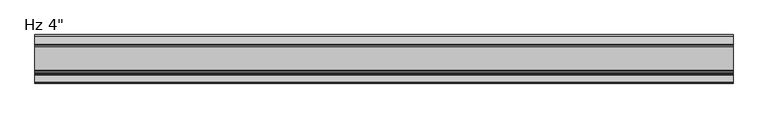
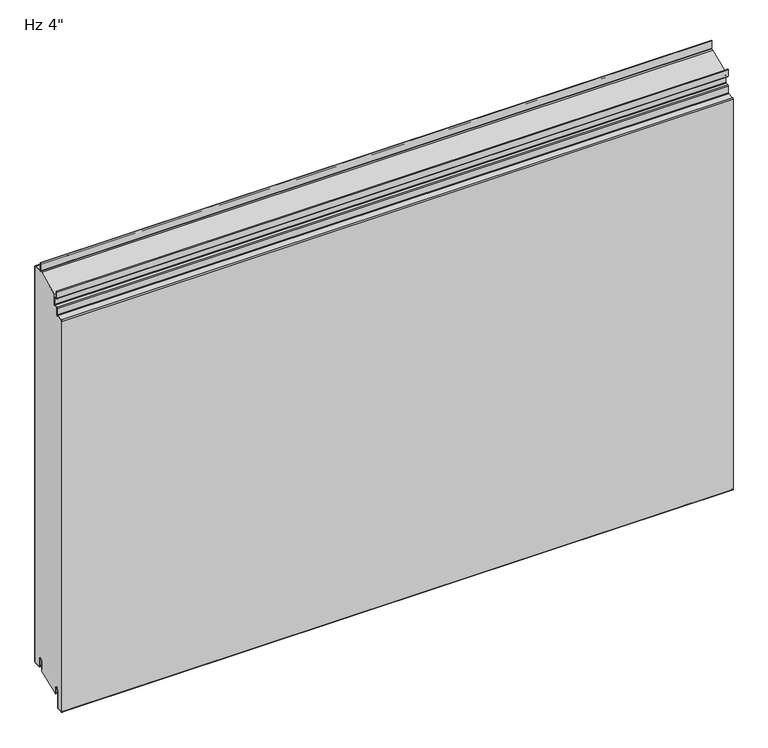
"""IFC4 building model written with IfcOpenShell, lengths in millimetres: plate geometry."""

from ifc_helpers import new_model, si_unit, point, frame, frame_2d, origin, place, context, project, spatial, polyline, circle_curve, ellipse_curve, trimmed, segment, composite_curve, outline, extrude, source, transform, mapped, element, save
from ifc_brep_helpers import plane_surface, cylinder_surface, revolved_surface, extruded_surface, advanced_brep


def plate_32df100a(model_context):
    return source(origin(), model_context, "Body", "SolidModel", [
        extrude(outline(composite_curve([segment(trimmed(circle_curve(frame_2d((-21.43125, 19.05)), 4.96875), [point((-16.4625, 19.05))], [point((-26.4, 19.05))], True, "CARTESIAN"), True, "CONTINUOUS"), segment(polyline([(-26.4, 19.05), (-26.4, -3.1323422), (-74.6157227, -23.01875), (-76.2, -23.01875), (-76.2, -13.5080174), (-76.99375, -13.5080174), (-76.7875, -11.9205174)]), True, "CONTINUOUS"), segment(trimmed(circle_curve(frame_2d((-81.75625, -11.9205174)), 4.96875), [point((-76.7875, -11.9205174))], [point((-86.725, -11.9205174))], True, "CARTESIAN"), True, "CONTINUOUS"), segment(polyline([(-86.725, -11.9205174), (-86.725, -50.1038221)]), True, "CONTINUOUS"), segment(trimmed(circle_curve(frame_2d((-88.10625, -50.1038221)), 1.38125), [point((-86.725, -50.1038221))], [point((-88.033961, -51.4831791))], False, "CARTESIAN"), True, "CONTINUOUS"), segment(polyline([(-88.033961, -51.4831791), (-99.146461, -52.0655606)]), True, "CONTINUOUS"), segment(trimmed(circle_curve(frame_2d((-99.21875, -50.6862035)), 1.38125), [point((-99.146461, -52.0655606))], [point((-100.6, -50.6862035))], False, "CARTESIAN"), True, "CONTINUOUS"), segment(polyline([(-100.6, -50.6862035), (-100.6, 846.2447607)]), True, "CONTINUOUS"), segment(trimmed(circle_curve(frame_2d((-99.21875, 846.2447607)), 1.38125), [point((-100.6, 846.2447607))], [point((-99.291039, 847.6241177))], False, "CARTESIAN"), True, "CONTINUOUS"), segment(polyline([(-99.291039, 847.6241177), (-85.5895807, 848.3421807)]), True, "CONTINUOUS"), segment(trimmed(circle_curve(frame_2d((-85.725, 850.9261347)), 2.5875), [point((-85.5895807, 848.3421807))], [point((-83.1375, 850.9261347))], True, "CARTESIAN"), True, "CONTINUOUS"), segment(polyline([(-83.1375, 850.9261347), (-83.1375, 865.0824411)]), True, "CONTINUOUS"), segment(trimmed(circle_curve(frame_2d((-81.75625, 865.0824411)), 1.38125), [point((-83.1375, 865.0824411))], [point((-81.828539, 866.4617981))], False, "CARTESIAN"), True, "CONTINUOUS"), segment(polyline([(-81.828539, 866.4617981), (-76.0645807, 866.7638744)]), True, "CONTINUOUS"), segment(trimmed(circle_curve(frame_2d((-76.2, 869.3478283)), 2.5875), [point((-76.0645807, 866.7638744))], [point((-73.6125, 869.3478283))], True, "CARTESIAN"), True, "CONTINUOUS"), segment(polyline([(-73.6125, 869.3478283), (-73.6125, 891.7892934), (-24.9057308, 912.60625), (-2.38125, 912.60625)]), True, "CONTINUOUS"), segment(trimmed(circle_curve(frame_2d((-2.38125, 911.225)), 1.38125), [point((-2.38125, 912.60625))], [point((-1.0, 911.225))], False, "CARTESIAN"), True, "CONTINUOUS"), segment(polyline([(-1.0, 911.225), (-1.0, 3.175)]), True, "CONTINUOUS"), segment(trimmed(circle_curve(frame_2d((-2.38125, 3.175)), 1.38125), [point((-1.0, 3.175))], [point((-2.38125, 1.79375))], False, "CARTESIAN"), True, "CONTINUOUS"), segment(polyline([(-2.38125, 1.79375), (-15.08125, 1.79375)]), True, "CONTINUOUS"), segment(trimmed(circle_curve(frame_2d((-15.08125, 3.175)), 1.38125), [point((-15.08125, 1.79375))], [point((-16.4625, 3.175))], False, "CARTESIAN"), True, "CONTINUOUS"), segment(polyline([(-16.4625, 3.175), (-16.4625, 19.05)]), True, "CONTINUOUS")], self_intersect=False)), frame((-730.0, 0.0, 0.0), z_axis=(1.0, 0.0, 0.0), x_axis=(0.0, 1.0, 0.0)), (0.0, 0.0, 1.0), 1460.0),
        extrude(outline(composite_curve([segment(polyline([(-25.4, 0.79375), (-26.4, 0.79375), (-26.4, 19.05)]), True, "CONTINUOUS"), segment(trimmed(circle_curve(frame_2d((-21.43125, 19.05)), 4.96875), [point((-26.4, 19.05))], [point((-16.4625, 19.05))], False, "CARTESIAN"), True, "CONTINUOUS"), segment(polyline([(-16.4625, 19.05), (-16.4625, 3.175)]), True, "CONTINUOUS"), segment(trimmed(circle_curve(frame_2d((-15.08125, 3.175)), 1.38125), [point((-16.4625, 3.175))], [point((-15.08125, 1.79375))], True, "CARTESIAN"), True, "CONTINUOUS"), segment(polyline([(-15.08125, 1.79375), (-2.38125, 1.79375)]), True, "CONTINUOUS"), segment(trimmed(circle_curve(frame_2d((-2.38125, 3.175)), 1.38125), [point((-2.38125, 1.79375))], [point((-1.0, 3.175))], True, "CARTESIAN"), True, "CONTINUOUS"), segment(polyline([(-1.0, 3.175), (-1.0, 911.225)]), True, "CONTINUOUS"), segment(trimmed(circle_curve(frame_2d((-2.38125, 911.225)), 1.38125), [point((-1.0, 911.225))], [point((-2.38125, 912.60625))], True, "CARTESIAN"), True, "CONTINUOUS"), segment(polyline([(-2.38125, 912.60625), (-19.446875, 912.60625)]), True, "CONTINUOUS"), segment(trimmed(circle_curve(frame_2d((-19.446875, 915.19375)), 2.5875), [point((-19.446875, 912.60625))], [point((-22.034375, 915.19375))], False, "CARTESIAN"), True, "CONTINUOUS"), segment(polyline([(-22.034375, 915.19375), (-22.034375, 932.65625), (-21.034375, 932.65625), (-21.034375, 915.19375)]), True, "CONTINUOUS"), segment(trimmed(circle_curve(frame_2d((-19.446875, 915.19375)), 1.5875), [point((-21.034375, 915.19375))], [point((-19.446875, 913.60625))], True, "CARTESIAN"), True, "CONTINUOUS"), segment(polyline([(-19.446875, 913.60625), (-2.38125, 913.60625)]), True, "CONTINUOUS"), segment(trimmed(circle_curve(frame_2d((-2.38125, 911.225)), 2.38125), [point((-2.38125, 913.60625))], [point((0.0, 911.225))], False, "CARTESIAN"), True, "CONTINUOUS"), segment(polyline([(0.0, 911.225), (0.0, 3.175)]), True, "CONTINUOUS"), segment(trimmed(circle_curve(frame_2d((-2.38125, 3.175)), 2.38125), [point((0.0, 3.175))], [point((-2.38125, 0.79375))], False, "CARTESIAN"), True, "CONTINUOUS"), segment(polyline([(-2.38125, 0.79375), (-15.08125, 0.79375)]), True, "CONTINUOUS"), segment(trimmed(circle_curve(frame_2d((-15.08125, 3.175)), 2.38125), [point((-15.08125, 0.79375))], [point((-17.4625, 3.175))], False, "CARTESIAN"), True, "CONTINUOUS"), segment(polyline([(-17.4625, 3.175), (-17.4625, 19.05)]), True, "CONTINUOUS"), segment(trimmed(circle_curve(frame_2d((-21.43125, 19.05)), 3.96875), [point((-17.4625, 19.05))], [point((-25.4, 19.05))], True, "CARTESIAN"), True, "CONTINUOUS"), segment(polyline([(-25.4, 19.05), (-25.4, 0.79375)]), True, "CONTINUOUS")], self_intersect=False)), frame((-730.0, 0.0, 0.0), z_axis=(1.0, 0.0, 0.0), x_axis=(0.0, 1.0, 0.0)), (0.0, 0.0, 1.0), 1460.0),
        advanced_brep(
        [(-730.0, -76.2, -23.2314549), (-730.0, -77.7875, -23.2314549), (-730.0, -77.7875, -11.9205174), (-730.0, -85.725, -11.9205174), (-730.0, -85.725, -50.1038221), (-730.0, -87.981625, -52.4818086), (-730.0, -99.094125, -53.0641901), (-730.0, -101.6, -50.6862035), (-730.0, -101.6, 846.2447607), (-730.0, -99.343375, 848.6227473), (-730.0, -85.6419167, 849.3408103), (-730.0, -84.1375, 850.9261347), (-730.0, -84.1375, 865.0824411), (-730.0, -81.880875, 867.4604276), (-730.0, -76.1169167, 867.7625039), (-730.0, -74.6125, 869.3478283), (-730.0, -74.6125, 884.2232326), (-730.0, -76.2, 885.8107326), (-730.0, -80.3671875, 885.8107326), (-730.0, -82.7484375, 888.1919826), (-730.0, -82.7484375, 902.6836032), (-730.0, -80.9546875, 902.6836032), (-730.0, -80.9546875, 892.9544826), (-730.0, -81.7484375, 892.9544826), (-730.0, -81.7484375, 888.1919826), (-730.0, -80.3671875, 886.8107326), (-730.0, -76.2, 886.8107326), (-730.0, -73.6125, 884.2232326), (-730.0, -73.6125, 869.3478283), (-730.0, -76.0645807, 866.7638744), (-730.0, -81.828539, 866.4617981), (-730.0, -83.1375, 865.0824411), (-730.0, -83.1375, 850.9261347), (-730.0, -85.5895807, 848.3421807), (-730.0, -99.291039, 847.6241177), (-730.0, -100.6, 846.2447607), (-730.0, -100.6, -50.6862035), (-730.0, -99.146461, -52.0655606), (-730.0, -88.033961, -51.4831791), (-730.0, -86.725, -50.1038221), (-730.0, -86.725, -11.9205174), (-730.0, -76.7875, -11.9205174), (-730.0, -76.99375, -13.5080174), (-730.0, -76.2, -13.5080174), (730.0, -76.2, -23.2314549), (730.0, -76.2, -13.5080174), (730.0, -76.99375, -13.5080174), (730.0, -76.7875, -11.9205174), (730.0, -86.725, -11.9205174), (730.0, -86.725, -50.1038221), (730.0, -88.033961, -51.4831791), (730.0, -99.146461, -52.0655606), (730.0, -100.6, -50.6862035), (730.0, -100.6, 846.2447607), (730.0, -99.291039, 847.6241177), (730.0, -85.5895807, 848.3421807), (730.0, -83.1375, 850.9261347), (730.0, -83.1375, 865.0824411), (730.0, -81.828539, 866.4617981), (730.0, -76.0645807, 866.7638744), (730.0, -73.6125, 869.3478283), (730.0, -73.6125, 884.2232326), (730.0, -76.2, 886.8107326), (730.0, -80.3671875, 886.8107326), (730.0, -81.7484375, 888.1919826), (730.0, -81.7484375, 892.9544826), (730.0, -80.9546875, 892.9544826), (730.0, -80.9546875, 902.6836032), (730.0, -82.7484375, 902.6836032), (730.0, -82.7484375, 888.1919826), (730.0, -80.3671875, 885.8107326), (730.0, -76.2, 885.8107326), (730.0, -74.6125, 884.2232326), (730.0, -74.6125, 869.3478283), (730.0, -76.1169167, 867.7625039), (730.0, -81.880875, 867.4604276), (730.0, -84.1375, 865.0824411), (730.0, -84.1375, 850.9261347), (730.0, -85.6419167, 849.3408103), (730.0, -99.343375, 848.6227473), (730.0, -101.6, 846.2447607), (730.0, -101.6, -50.6862035), (730.0, -99.094125, -53.0641901), (730.0, -87.981625, -52.4818086), (730.0, -85.725, -50.1038221), (730.0, -85.725, -11.9205174), (730.0, -77.7875, -11.9205174), (730.0, -77.7875, -23.2314549)],
        [
            (0, 1, circle_curve(frame((-730.0, -76.99375, -23.2314549), z_axis=(-1.0, 0.0, 0.0), x_axis=(0.0, 0.0, -1.0)), 0.79375)),
            (1, 2),
            (2, 3, circle_curve(frame((-730.0, -81.75625, -11.9205174), z_axis=(1.0, 0.0, 0.0), x_axis=(0.0, 0.0, -1.0)), 3.96875)),
            (3, 4),
            (4, 5, circle_curve(frame((-730.0, -88.10625, -50.1038221), z_axis=(-1.0, 0.0, 0.0), x_axis=(0.0, 0.0, -1.0)), 2.38125)),
            (5, 6),
            (6, 7, circle_curve(frame((-730.0, -99.21875, -50.6862035), z_axis=(-1.0, 0.0, 0.0), x_axis=(0.0, 0.0, -1.0)), 2.38125)),
            (7, 8),
            (8, 9, circle_curve(frame((-730.0, -99.21875, 846.2447607), z_axis=(-1.0, 0.0, 0.0), x_axis=(0.0, 0.0, -1.0)), 2.38125)),
            (9, 10),
            (10, 11, circle_curve(frame((-730.0, -85.725, 850.9261347), z_axis=(1.0, 0.0, 0.0), x_axis=(0.0, 0.0, -1.0)), 1.5875)),
            (11, 12),
            (12, 13, circle_curve(frame((-730.0, -81.75625, 865.0824411), z_axis=(-1.0, 0.0, 0.0), x_axis=(0.0, 0.0, -1.0)), 2.38125)),
            (13, 14),
            (14, 15, circle_curve(frame((-730.0, -76.2, 869.3478283), z_axis=(1.0, 0.0, 0.0), x_axis=(0.0, 0.0, -1.0)), 1.5875)),
            (15, 16),
            (16, 17, circle_curve(frame((-730.0, -76.2, 884.2232326), z_axis=(1.0, 0.0, 0.0), x_axis=(0.0, 0.0, -1.0)), 1.5875)),
            (17, 18),
            (18, 19, circle_curve(frame((-730.0, -80.3671875, 888.1919826), z_axis=(-1.0, 0.0, 0.0), x_axis=(0.0, 0.0, -1.0)), 2.38125)),
            (19, 20),
            (20, 21, ellipse_curve(frame((-730.0, -81.8515625, 902.6836032), z_axis=(-1.0, 0.0, 0.0), x_axis=(0.0, 1.0, 0.0)), 0.896875, 0.7852275)),
            (21, 22),
            (22, 23),
            (23, 24),
            (24, 25, circle_curve(frame((-730.0, -80.3671875, 888.1919826), z_axis=(1.0, 0.0, 0.0), x_axis=(0.0, 0.0, -1.0)), 1.38125)),
            (25, 26),
            (26, 27, circle_curve(frame((-730.0, -76.2, 884.2232326), z_axis=(-1.0, 0.0, 0.0), x_axis=(0.0, 0.0, -1.0)), 2.5875)),
            (27, 28),
            (28, 29, circle_curve(frame((-730.0, -76.2, 869.3478283), z_axis=(-1.0, 0.0, 0.0), x_axis=(0.0, 0.0, -1.0)), 2.5875)),
            (29, 30),
            (30, 31, circle_curve(frame((-730.0, -81.75625, 865.0824411), z_axis=(1.0, 0.0, 0.0), x_axis=(0.0, 0.0, -1.0)), 1.38125)),
            (31, 32),
            (32, 33, circle_curve(frame((-730.0, -85.725, 850.9261347), z_axis=(-1.0, 0.0, 0.0), x_axis=(0.0, 0.0, -1.0)), 2.5875)),
            (33, 34),
            (34, 35, circle_curve(frame((-730.0, -99.21875, 846.2447607), z_axis=(1.0, 0.0, 0.0), x_axis=(0.0, 0.0, -1.0)), 1.38125)),
            (35, 36),
            (36, 37, circle_curve(frame((-730.0, -99.21875, -50.6862035), z_axis=(1.0, 0.0, 0.0), x_axis=(0.0, 0.0, -1.0)), 1.38125)),
            (37, 38),
            (38, 39, circle_curve(frame((-730.0, -88.10625, -50.1038221), z_axis=(1.0, 0.0, 0.0), x_axis=(0.0, 0.0, -1.0)), 1.38125)),
            (39, 40),
            (40, 41, circle_curve(frame((-730.0, -81.75625, -11.9205174), z_axis=(-1.0, 0.0, 0.0), x_axis=(0.0, 0.0, -1.0)), 4.96875)),
            (41, 42),
            (42, 43),
            (43, 0),
            (44, 45),
            (45, 46),
            (46, 47),
            (47, 48, circle_curve(frame((730.0, -81.75625, -11.9205174), z_axis=(1.0, 0.0, 0.0), x_axis=(0.0, 0.0, -1.0)), 4.96875)),
            (48, 49),
            (49, 50, circle_curve(frame((730.0, -88.10625, -50.1038221), z_axis=(-1.0, 0.0, 0.0), x_axis=(0.0, 0.0, -1.0)), 1.38125)),
            (50, 51),
            (51, 52, circle_curve(frame((730.0, -99.21875, -50.6862035), z_axis=(-1.0, 0.0, 0.0), x_axis=(0.0, 0.0, -1.0)), 1.38125)),
            (52, 53),
            (53, 54, circle_curve(frame((730.0, -99.21875, 846.2447607), z_axis=(-1.0, 0.0, 0.0), x_axis=(0.0, 0.0, -1.0)), 1.38125)),
            (54, 55),
            (55, 56, circle_curve(frame((730.0, -85.725, 850.9261347), z_axis=(1.0, 0.0, 0.0), x_axis=(0.0, 0.0, -1.0)), 2.5875)),
            (56, 57),
            (57, 58, circle_curve(frame((730.0, -81.75625, 865.0824411), z_axis=(-1.0, 0.0, 0.0), x_axis=(0.0, 0.0, -1.0)), 1.38125)),
            (58, 59),
            (59, 60, circle_curve(frame((730.0, -76.2, 869.3478283), z_axis=(1.0, 0.0, 0.0), x_axis=(0.0, 0.0, -1.0)), 2.5875)),
            (60, 61),
            (61, 62, circle_curve(frame((730.0, -76.2, 884.2232326), z_axis=(1.0, 0.0, 0.0), x_axis=(0.0, 0.0, -1.0)), 2.5875)),
            (62, 63),
            (63, 64, circle_curve(frame((730.0, -80.3671875, 888.1919826), z_axis=(-1.0, 0.0, 0.0), x_axis=(0.0, 0.0, -1.0)), 1.38125)),
            (64, 65),
            (65, 66),
            (66, 67),
            (67, 68, ellipse_curve(frame((730.0, -81.8515625, 902.6836032), z_axis=(1.0, 0.0, 0.0), x_axis=(0.0, 1.0, 0.0)), 0.896875, 0.7852275)),
            (68, 69),
            (69, 70, circle_curve(frame((730.0, -80.3671875, 888.1919826), z_axis=(1.0, 0.0, 0.0), x_axis=(0.0, 0.0, -1.0)), 2.38125)),
            (70, 71),
            (71, 72, circle_curve(frame((730.0, -76.2, 884.2232326), z_axis=(-1.0, 0.0, 0.0), x_axis=(0.0, 0.0, -1.0)), 1.5875)),
            (72, 73),
            (73, 74, circle_curve(frame((730.0, -76.2, 869.3478283), z_axis=(-1.0, 0.0, 0.0), x_axis=(0.0, 0.0, -1.0)), 1.5875)),
            (74, 75),
            (75, 76, circle_curve(frame((730.0, -81.75625, 865.0824411), z_axis=(1.0, 0.0, 0.0), x_axis=(0.0, 0.0, -1.0)), 2.38125)),
            (76, 77),
            (77, 78, circle_curve(frame((730.0, -85.725, 850.9261347), z_axis=(-1.0, 0.0, 0.0), x_axis=(0.0, 0.0, -1.0)), 1.5875)),
            (78, 79),
            (79, 80, circle_curve(frame((730.0, -99.21875, 846.2447607), z_axis=(1.0, 0.0, 0.0), x_axis=(0.0, 0.0, -1.0)), 2.38125)),
            (80, 81),
            (81, 82, circle_curve(frame((730.0, -99.21875, -50.6862035), z_axis=(1.0, 0.0, 0.0), x_axis=(0.0, 0.0, -1.0)), 2.38125)),
            (82, 83),
            (83, 84, circle_curve(frame((730.0, -88.10625, -50.1038221), z_axis=(1.0, 0.0, 0.0), x_axis=(0.0, 0.0, -1.0)), 2.38125)),
            (84, 85),
            (85, 86, circle_curve(frame((730.0, -81.75625, -11.9205174), z_axis=(-1.0, 0.0, 0.0), x_axis=(0.0, 0.0, -1.0)), 3.96875)),
            (86, 87),
            (87, 44, circle_curve(frame((730.0, -76.99375, -23.2314549), z_axis=(1.0, 0.0, 0.0), x_axis=(0.0, 0.0, -1.0)), 0.79375)),
            (36, 52),
            (51, 37),
            (50, 38),
            (49, 39),
            (48, 40),
            (47, 41),
            (42, 46),
            (45, 43),
            (22, 66),
            (65, 23),
            (21, 67),
            (20, 68),
            (34, 54),
            (53, 35),
            (32, 56),
            (55, 33),
            (30, 58),
            (57, 31),
            (28, 60),
            (59, 29),
            (24, 64),
            (63, 25),
            (26, 62),
            (61, 27),
            (19, 69),
            (17, 71),
            (70, 18),
            (15, 73),
            (72, 16),
            (13, 75),
            (74, 14),
            (11, 77),
            (76, 12),
            (9, 79),
            (78, 10),
            (7, 81),
            (80, 8),
            (5, 83),
            (82, 6),
            (3, 85),
            (84, 4),
            (1, 87),
            (86, 2),
            (44, 0),
        ],
        [
            plane_surface(frame((-730.0, -101.6, 457.2), z_axis=(-1.0, 0.0, 0.0), x_axis=(0.0, -1.0, 0.0))),
            plane_surface(frame((730.0, -101.6, 457.2), z_axis=(1.0, 0.0, 0.0), x_axis=(0.0, -1.0, 0.0))),
            revolved_surface(polyline([(730.0, -99.21875, -52.0674535), (-730.0, -99.21875, -52.0674535)]), (-730.0, -99.21875, -50.6862035), (1.0, 0.0, 0.0)),
            plane_surface(frame((-730.0, -88.033961, -51.4831791), z_axis=(0.0, -0.05233595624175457, 0.9986295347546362), x_axis=(1.0, 0.0, 0.0))),
            revolved_surface(polyline([(730.0, -88.10625, -51.485072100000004), (-730.0, -88.10625, -51.485072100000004)]), (-730.0, -88.10625, -50.1038221), (1.0, 0.0, 0.0)),
            plane_surface(frame((-730.0, -86.725, -11.9205174), z_axis=(0.0, -1.0, 0.0), x_axis=(1.0, 0.0, 0.0))),
            cylinder_surface(frame((-730.0, -81.75625, -11.9205174), z_axis=(-1.0, 0.0, 0.0), x_axis=(0.0, 0.0, -1.0)), 4.96875),
            plane_surface(frame((-730.0, -76.2, -13.5080174), z_axis=(0.0, 0.0, 1.0), x_axis=(1.0, 0.0, 0.0))),
            plane_surface(frame((-730.0, -76.99375, -13.5080174), z_axis=(0.0, 0.9916655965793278, -0.12883844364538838), x_axis=(1.0, 0.0, 0.0))),
            plane_surface(frame((-730.0, -81.7484375, 892.9544826), z_axis=(0.0, 0.0, -1.0), x_axis=(1.0, 0.0, 0.0))),
            plane_surface(frame((-730.0, -80.9546875, 892.9544826), z_axis=(0.0, 1.0, 0.0), x_axis=(1.0, 0.0, 0.0))),
            extruded_surface(trimmed(ellipse_curve(frame((-730.0, -81.8515625, 902.6836032), z_axis=(1.0, 0.0, 0.0), x_axis=(0.0, 1.0, 0.0)), 0.896875, 0.7852275), [point((-730.0, -80.9546875, 902.6836032))], [point((-730.0, -82.7484375, 902.6836032))], True, "CARTESIAN"), (1460.0, 0.0, 0.0), 1460.0),
            revolved_surface(polyline([(730.0, -99.21875, 844.8635107), (-730.0, -99.21875, 844.8635107)]), (-730.0, -99.21875, 846.2447607), (1.0, 0.0, 0.0)),
            cylinder_surface(frame((-730.0, -85.725, 850.9261347), z_axis=(-1.0, 0.0, 0.0), x_axis=(0.0, 0.0, -1.0)), 2.5875),
            plane_surface(frame((-730.0, -99.291039, 847.6241177), z_axis=(0.0, 0.05233595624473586, -0.99862953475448), x_axis=(1.0, 0.0, 0.0))),
            plane_surface(frame((-730.0, -100.6, -50.6862035), z_axis=(0.0, 1.0, 0.0), x_axis=(1.0, 0.0, 0.0))),
            revolved_surface(polyline([(730.0, -81.75625, 863.7011911), (-730.0, -81.75625, 863.7011911)]), (-730.0, -81.75625, 865.0824411), (1.0, 0.0, 0.0)),
            cylinder_surface(frame((-730.0, -76.2, 869.3478283), z_axis=(-1.0, 0.0, 0.0), x_axis=(0.0, 0.0, -1.0)), 2.5875),
            plane_surface(frame((-730.0, -81.828539, 866.4617981), z_axis=(0.0, 0.05233595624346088, -0.9986295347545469), x_axis=(1.0, 0.0, 0.0))),
            plane_surface(frame((-730.0, -83.1375, 850.9261347), z_axis=(0.0, 1.0, 0.0), x_axis=(1.0, 0.0, 0.0))),
            revolved_surface(polyline([(730.0, -80.3671875, 886.8107325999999), (-730.0, -80.3671875, 886.8107325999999)]), (-730.0, -80.3671875, 888.1919826), (1.0, 0.0, 0.0)),
            cylinder_surface(frame((-730.0, -76.2, 884.2232326), z_axis=(-1.0, 0.0, 0.0), x_axis=(0.0, 0.0, -1.0)), 2.5875),
            plane_surface(frame((-730.0, -76.2, 886.8107326), z_axis=(0.0, 0.0, 1.0), x_axis=(1.0, 0.0, 0.0))),
            plane_surface(frame((-730.0, -81.7484375, 888.1919826), z_axis=(0.0, 1.0, 0.0), x_axis=(1.0, 0.0, 0.0))),
            plane_surface(frame((-730.0, -82.7484375, 902.6836032), z_axis=(0.0, -1.0, 0.0), x_axis=(1.0, 0.0, 0.0))),
            plane_surface(frame((-730.0, -80.3671875, 885.8107326), z_axis=(0.0, 0.0, -1.0), x_axis=(1.0, 0.0, 0.0))),
            cylinder_surface(frame((-730.0, -80.3671875, 888.1919826), z_axis=(-1.0, 0.0, 0.0), x_axis=(0.0, 0.0, -1.0)), 2.38125),
            plane_surface(frame((-730.0, -73.6125, 869.3478283), z_axis=(0.0, 1.0, 0.0), x_axis=(1.0, 0.0, 0.0))),
            plane_surface(frame((-730.0, -74.6125, 884.2232326), z_axis=(0.0, -1.0, 0.0), x_axis=(1.0, 0.0, 0.0))),
            plane_surface(frame((-730.0, -76.1169167, 867.7625039), z_axis=(0.0, -0.05233595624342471, 0.9986295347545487), x_axis=(1.0, 0.0, 0.0))),
            revolved_surface(polyline([(730.0, -76.2, 867.7603283), (-730.0, -76.2, 867.7603283)]), (-730.0, -76.2, 869.3478283), (1.0, 0.0, 0.0)),
            revolved_surface(polyline([(730.0, -76.2, 882.6357326), (-730.0, -76.2, 882.6357326)]), (-730.0, -76.2, 884.2232326), (1.0, 0.0, 0.0)),
            plane_surface(frame((-730.0, -84.1375, 865.0824411), z_axis=(0.0, -1.0, 0.0), x_axis=(1.0, 0.0, 0.0))),
            plane_surface(frame((-730.0, -85.6419167, 849.3408103), z_axis=(0.0, -0.052335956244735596, 0.99862953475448), x_axis=(1.0, 0.0, 0.0))),
            revolved_surface(polyline([(730.0, -85.725, 849.3386347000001), (-730.0, -85.725, 849.3386347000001)]), (-730.0, -85.725, 850.9261347), (1.0, 0.0, 0.0)),
            cylinder_surface(frame((-730.0, -81.75625, 865.0824411), z_axis=(-1.0, 0.0, 0.0), x_axis=(0.0, 0.0, -1.0)), 2.38125),
            plane_surface(frame((-730.0, -101.6, 846.2447607), z_axis=(0.0, -1.0, 0.0), x_axis=(1.0, 0.0, 0.0))),
            plane_surface(frame((-730.0, -99.094125, -53.0641901), z_axis=(0.0, 0.05233595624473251, -0.9986295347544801), x_axis=(1.0, 0.0, 0.0))),
            cylinder_surface(frame((-730.0, -99.21875, -50.6862035), z_axis=(-1.0, 0.0, 0.0), x_axis=(0.0, 0.0, -1.0)), 2.38125),
            cylinder_surface(frame((-730.0, -99.21875, 846.2447607), z_axis=(-1.0, 0.0, 0.0), x_axis=(0.0, 0.0, -1.0)), 2.38125),
            plane_surface(frame((-730.0, -85.725, -50.1038221), z_axis=(0.0, 1.0, 0.0), x_axis=(1.0, 0.0, 0.0))),
            plane_surface(frame((-730.0, -77.7875, -11.9205174), z_axis=(0.0, -1.0, 0.0), x_axis=(1.0, 0.0, 0.0))),
            revolved_surface(polyline([(730.0, -81.75625, -15.8892674), (-730.0, -81.75625, -15.8892674)]), (-730.0, -81.75625, -11.9205174), (1.0, 0.0, 0.0)),
            cylinder_surface(frame((-730.0, -88.10625, -50.1038221), z_axis=(-1.0, 0.0, 0.0), x_axis=(0.0, 0.0, -1.0)), 2.38125),
            plane_surface(frame((-730.0, -76.2, -23.2314549), z_axis=(0.0, 1.0, 0.0), x_axis=(1.0, 0.0, 0.0))),
            cylinder_surface(frame((-730.0, -76.99375, -23.2314549), z_axis=(-1.0, 0.0, 0.0), x_axis=(0.0, 0.0, -1.0)), 0.79375),
        ],
        [
            (0, [[1, 2, 3, 4, 5, 6, 7, 8, 9, 10, 11, 12, 13, 14, 15, 16, 17, 18, 19, 20, 21, 22, 23, 24, 25, 26, 27, 28, 29, 30, 31, 32, 33, 34, 35, 36, 37, 38, 39, 40, 41, 42, 43, 44]]),
            (1, [[45, 46, 47, 48, 49, 50, 51, 52, 53, 54, 55, 56, 57, 58, 59, 60, 61, 62, 63, 64, 65, 66, 67, 68, 69, 70, 71, 72, 73, 74, 75, 76, 77, 78, 79, 80, 81, 82, 83, 84, 85, 86, 87, 88]]),
            (2, [[89, -52, 90, -37]]),
            (3, [[-90, -51, 91, -38]]),
            (4, [[-91, -50, 92, -39]]),
            (5, [[-92, -49, 93, -40]]),
            (6, [[-93, -48, 94, -41]]),
            (7, [[95, -46, 96, -43]]),
            (8, [[-94, -47, -95, -42]]),
            (9, [[97, -66, 98, -23]]),
            (10, [[99, -67, -97, -22]]),
            (11, [[100, -68, -99, -21]]),
            (12, [[101, -54, 102, -35]]),
            (13, [[103, -56, 104, -33]]),
            (14, [[-104, -55, -101, -34]]),
            (15, [[-102, -53, -89, -36]]),
            (16, [[105, -58, 106, -31]]),
            (17, [[107, -60, 108, -29]]),
            (18, [[-108, -59, -105, -30]]),
            (19, [[-106, -57, -103, -32]]),
            (20, [[109, -64, 110, -25]]),
            (21, [[111, -62, 112, -27]]),
            (22, [[-110, -63, -111, -26]]),
            (23, [[-98, -65, -109, -24]]),
            (24, [[113, -69, -100, -20]]),
            (25, [[114, -71, 115, -18]]),
            (26, [[-115, -70, -113, -19]]),
            (27, [[-112, -61, -107, -28]]),
            (28, [[116, -73, 117, -16]]),
            (29, [[118, -75, 119, -14]]),
            (30, [[-119, -74, -116, -15]]),
            (31, [[-117, -72, -114, -17]]),
            (32, [[120, -77, 121, -12]]),
            (33, [[122, -79, 123, -10]]),
            (34, [[-123, -78, -120, -11]]),
            (35, [[-121, -76, -118, -13]]),
            (36, [[124, -81, 125, -8]]),
            (37, [[126, -83, 127, -6]]),
            (38, [[-127, -82, -124, -7]]),
            (39, [[-125, -80, -122, -9]]),
            (40, [[128, -85, 129, -4]]),
            (41, [[130, -87, 131, -2]]),
            (42, [[-131, -86, -128, -3]]),
            (43, [[-129, -84, -126, -5]]),
            (44, [[-96, -45, 132, -44]]),
            (45, [[-132, -88, -130, -1]]),
        ],
    ),
    ])


if __name__ == "__main__":
    model = new_model("IFC4")
    model_context = context("Model", 3, world=origin())
    ifc_project = project(units=[si_unit("LENGTHUNIT", "METRE", prefix="MILLI")], contexts=[model_context])
    site = spatial("IfcSite", under=ifc_project)
    building = spatial("IfcBuilding", under=site)
    placement = place(None, origin())
    plate_shape = plate_32df100a(model_context)
    element("IfcPlate", 1, ObjectType="KIP-36-DWHR-R19-CP-Hz-F : Hz 4\"", at=placement, inside=building, context=model_context, shape_type="MappedRepresentation", body=[
        mapped(plate_shape, transform((0.0, 0.0, 0.0), x_axis=(1.0, 0.0, 0.0), y_axis=(0.0, 1.0, 0.0), z_axis=(0.0, 0.0, 1.0))),
    ])
    save(model, "model.ifc")
